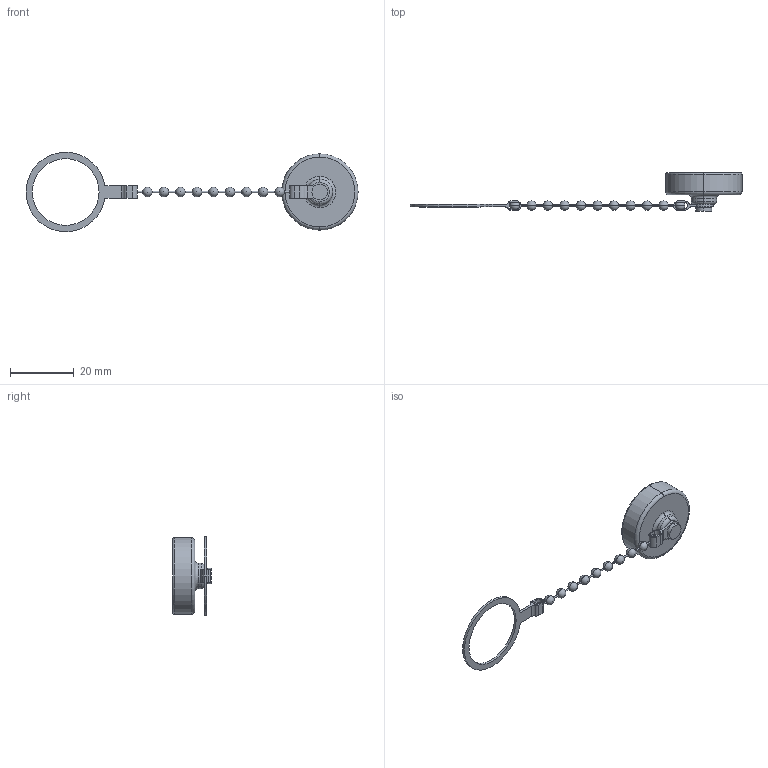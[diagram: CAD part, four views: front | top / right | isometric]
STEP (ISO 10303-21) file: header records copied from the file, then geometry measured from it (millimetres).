
FILE_DESCRIPTION (( 'STEP AP203' ), '1' );
FILE_NAME ('GT2C215012.STEP', '2020-05-22T01:15:30', ( '' ), ( '' ), 'SwSTEP 2.0', 'SolidWorks 2019', '' );
FILE_SCHEMA (( 'CONFIG_CONTROL_DESIGN' ));
Length unit declared in the file: millimetre
Products named in the file (1): GT2C215012
Bounding box: 104.5 x 12.2 x 24.92 mm (x, y, z)
Volume: 2322.4 mm3; surface area: 3684.8 mm2
Topology: 2 solids, 3 shells, 147 faces, 402 edges, 241 vertices
Faces by surface type: cylinder 75, plane 29, sphere 22, torus 12, cone 6, bspline 3
Entity records: 5343 total; most frequent: CARTESIAN_POINT 1815, DIRECTION 779, ORIENTED_EDGE 702, EDGE_CURVE 351, AXIS2_PLACEMENT_3D 324, VERTEX_POINT 212, CIRCLE 179, EDGE_LOOP 165
